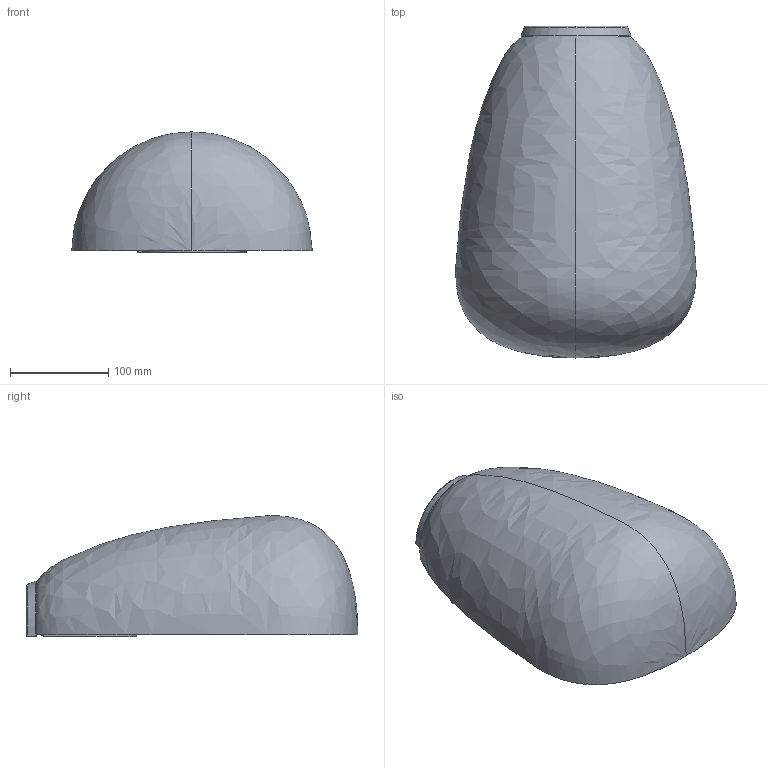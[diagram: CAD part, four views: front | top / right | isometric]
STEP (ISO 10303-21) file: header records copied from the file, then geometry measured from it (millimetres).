
FILE_DESCRIPTION (( 'STEP AP214' ), '1' );
FILE_NAME ('244_1-SEMI_W_ME_3D.STEP', '2021-05-04T10:54:52', ( '' ), ( '' ), 'SwSTEP 2.0', 'SolidWorks 2021', '' );
FILE_SCHEMA (( 'AUTOMOTIVE_DESIGN' ));
Length unit declared in the file: millimetre
Products named in the file (1): 244_1-SEMI_W_ME_3D
Bounding box: 244.18 x 337.05 x 122.05 mm (x, y, z)
Volume: 630992.2 mm3; surface area: 278253.6 mm2
Topology: 6 solids, 6 shells, 359 faces, 958 edges, 630 vertices
Faces by surface type: plane 176, cylinder 111, bspline 37, cone 19, torus 16
Entity records: 16508 total; most frequent: CARTESIAN_POINT 3590, ORIENTED_EDGE 1916, DIRECTION 1737, EDGE_CURVE 958, VERTEX_POINT 630, AXIS2_PLACEMENT_3D 608, VECTOR 521, LINE 521
